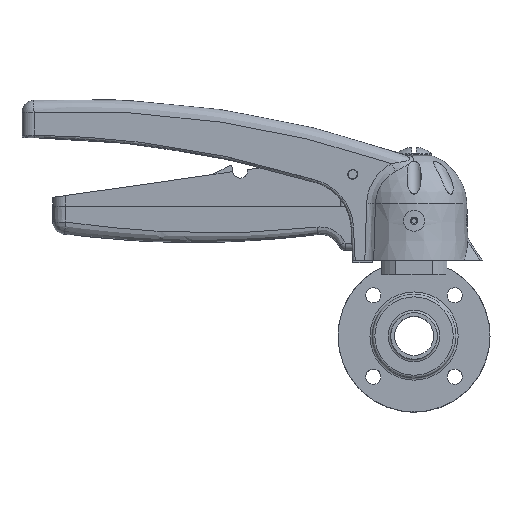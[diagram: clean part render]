
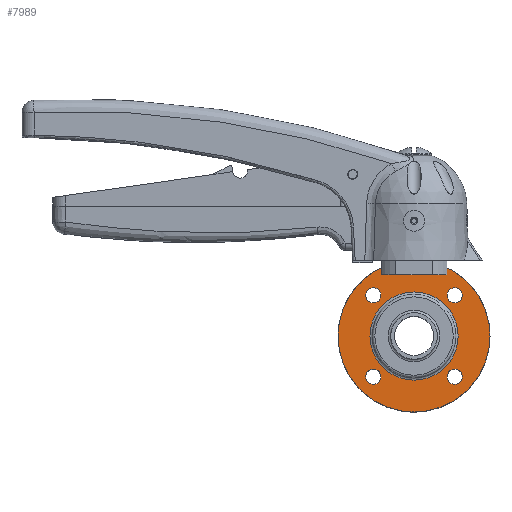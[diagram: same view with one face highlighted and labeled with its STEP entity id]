
A CAD part, top view. The second image highlights one B-rep face of the part: STEP entity #7989.
In plain terms, the highlighted planar face has unit normal (0, 0, 1) as drawn and (1, 0, 0) by its records, which use the part's own axes.
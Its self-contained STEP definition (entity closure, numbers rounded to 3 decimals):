
#1994=FACE_BOUND('',#2879,.T.);
#1995=FACE_BOUND('',#2880,.T.);
#1996=FACE_BOUND('',#2881,.T.);
#1997=FACE_BOUND('',#2882,.T.);
#1998=FACE_BOUND('',#2883,.T.);
#2419=FACE_OUTER_BOUND('',#2878,.T.);
#2878=EDGE_LOOP('',(#7293,#7294));
#2879=EDGE_LOOP('',(#7295));
#2880=EDGE_LOOP('',(#7296));
#2881=EDGE_LOOP('',(#7297));
#2882=EDGE_LOOP('',(#7298));
#2883=EDGE_LOOP('',(#7299,#7300));
#3164=CIRCLE('',#8711,3.1);
#3167=CIRCLE('',#8715,3.1);
#3170=CIRCLE('',#8719,3.1);
#3173=CIRCLE('',#8723,3.1);
#3180=CIRCLE('',#8736,31.);
#3181=CIRCLE('',#8737,31.);
#3183=CIRCLE('',#8740,18.);
#3184=CIRCLE('',#8741,18.);
#3898=VERTEX_POINT('',#22645);
#3901=VERTEX_POINT('',#22653);
#3904=VERTEX_POINT('',#22661);
#3907=VERTEX_POINT('',#22669);
#3923=VERTEX_POINT('',#22783);
#3924=VERTEX_POINT('',#22784);
#3925=VERTEX_POINT('',#22790);
#3926=VERTEX_POINT('',#22791);
#5024=EDGE_CURVE('',#3898,#3898,#3164,.T.);
#5028=EDGE_CURVE('',#3901,#3901,#3167,.T.);
#5032=EDGE_CURVE('',#3904,#3904,#3170,.T.);
#5036=EDGE_CURVE('',#3907,#3907,#3173,.T.);
#5056=EDGE_CURVE('',#3923,#3924,#3180,.T.);
#5057=EDGE_CURVE('',#3924,#3923,#3181,.T.);
#5060=EDGE_CURVE('',#3925,#3926,#3183,.T.);
#5061=EDGE_CURVE('',#3926,#3925,#3184,.T.);
#7293=ORIENTED_EDGE('',*,*,#5056,.T.);
#7294=ORIENTED_EDGE('',*,*,#5057,.T.);
#7295=ORIENTED_EDGE('',*,*,#5024,.T.);
#7296=ORIENTED_EDGE('',*,*,#5028,.T.);
#7297=ORIENTED_EDGE('',*,*,#5032,.T.);
#7298=ORIENTED_EDGE('',*,*,#5036,.T.);
#7299=ORIENTED_EDGE('',*,*,#5060,.F.);
#7300=ORIENTED_EDGE('',*,*,#5061,.F.);
#7569=PLANE('',#8739);
#7989=ADVANCED_FACE('',(#2419,#1994,#1995,#1996,#1997,#1998),#7569,.T.);
#8711=AXIS2_PLACEMENT_3D('',#22647,#10562,#10563);
#8715=AXIS2_PLACEMENT_3D('',#22655,#10571,#10572);
#8719=AXIS2_PLACEMENT_3D('',#22663,#10580,#10581);
#8723=AXIS2_PLACEMENT_3D('',#22671,#10589,#10590);
#8736=AXIS2_PLACEMENT_3D('',#22785,#10621,#10622);
#8737=AXIS2_PLACEMENT_3D('',#22786,#10623,#10624);
#8739=AXIS2_PLACEMENT_3D('',#22789,#10628,#10629);
#8740=AXIS2_PLACEMENT_3D('',#22792,#10630,#10631);
#8741=AXIS2_PLACEMENT_3D('',#22793,#10632,#10633);
#10562=DIRECTION('center_axis',(-1.,0.,0.));
#10563=DIRECTION('ref_axis',(0.,1.,0.));
#10571=DIRECTION('center_axis',(-1.,0.,0.));
#10572=DIRECTION('ref_axis',(0.,0.,-1.));
#10580=DIRECTION('center_axis',(-1.,0.,0.));
#10581=DIRECTION('ref_axis',(0.,-1.,0.));
#10589=DIRECTION('center_axis',(-1.,0.,0.));
#10590=DIRECTION('ref_axis',(0.,0.,1.));
#10621=DIRECTION('center_axis',(1.,0.,0.));
#10622=DIRECTION('ref_axis',(0.,0.,-1.));
#10623=DIRECTION('center_axis',(1.,0.,0.));
#10624=DIRECTION('ref_axis',(0.,0.,-1.));
#10628=DIRECTION('center_axis',(1.,0.,0.));
#10629=DIRECTION('ref_axis',(0.,0.,-1.));
#10630=DIRECTION('center_axis',(1.,0.,0.));
#10631=DIRECTION('ref_axis',(0.,0.,-1.));
#10632=DIRECTION('center_axis',(1.,0.,0.));
#10633=DIRECTION('ref_axis',(0.,0.,-1.));
#22645=CARTESIAN_POINT('',(10.,13.517,-16.617));
#22647=CARTESIAN_POINT('Origin',(10.,16.617,-16.617));
#22653=CARTESIAN_POINT('',(10.,-16.617,-13.517));
#22655=CARTESIAN_POINT('Origin',(10.,-16.617,-16.617));
#22661=CARTESIAN_POINT('',(10.,-13.517,16.617));
#22663=CARTESIAN_POINT('Origin',(10.,-16.617,16.617));
#22669=CARTESIAN_POINT('',(10.,16.617,13.517));
#22671=CARTESIAN_POINT('Origin',(10.,16.617,16.617));
#22783=CARTESIAN_POINT('',(10.,31.,0.));
#22784=CARTESIAN_POINT('',(10.,-31.,0.));
#22785=CARTESIAN_POINT('Origin',(10.,0.,0.));
#22786=CARTESIAN_POINT('Origin',(10.,0.,0.));
#22789=CARTESIAN_POINT('Origin',(10.,18.,0.));
#22790=CARTESIAN_POINT('',(10.,18.,0.));
#22791=CARTESIAN_POINT('',(10.,0.,18.));
#22792=CARTESIAN_POINT('Origin',(10.,0.,0.));
#22793=CARTESIAN_POINT('Origin',(10.,0.,0.));
